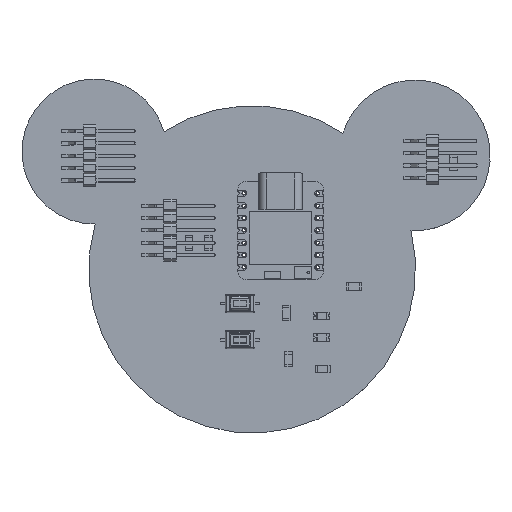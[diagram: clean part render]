
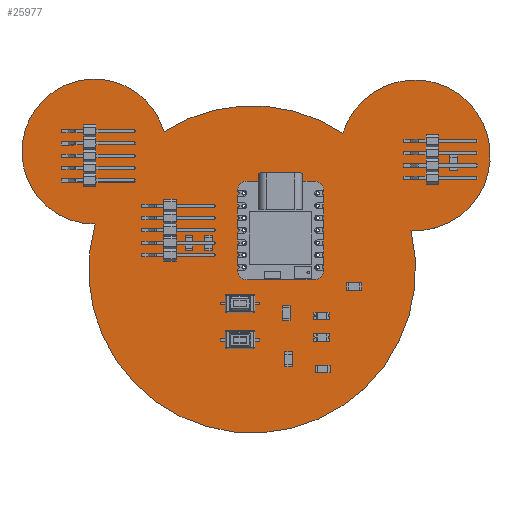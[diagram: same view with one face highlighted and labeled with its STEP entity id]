
A CAD part, top view. The second image highlights one B-rep face of the part: STEP entity #25977.
In plain terms, the highlighted planar face has unit normal (0, 0, 1).
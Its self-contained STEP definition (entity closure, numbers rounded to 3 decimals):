
#25704 = VERTEX_POINT('',#25705);
#25705 = CARTESIAN_POINT('',(60.671,-67.624,1.51));
#25711 = EDGE_CURVE('',#25704,#25712,#25714,.T.);
#25712 = VERTEX_POINT('',#25713);
#25713 = CARTESIAN_POINT('',(74.852,-48.59,1.51));
#25714 = CIRCLE('',#25715,14.915);
#25715 = AXIS2_PLACEMENT_3D('',#25716,#25717,#25718);
#25716 = CARTESIAN_POINT('',(60.517,-52.709,1.51));
#25717 = DIRECTION('',(0.,0.,-1.));
#25718 = DIRECTION('',(0.01,-1.,0.));
#25746 = VERTEX_POINT('',#25747);
#25747 = CARTESIAN_POINT('',(125.69,-68.987,1.51));
#25753 = EDGE_CURVE('',#25746,#25704,#25754,.T.);
#25754 = CIRCLE('',#25755,33.659);
#25755 = AXIS2_PLACEMENT_3D('',#25756,#25757,#25758);
#25756 = CARTESIAN_POINT('',(92.998,-76.999,1.51));
#25757 = DIRECTION('',(0.,0.,-1.));
#25758 = DIRECTION('',(0.971,0.238,0.));
#25777 = EDGE_CURVE('',#25712,#25778,#25780,.T.);
#25778 = VERTEX_POINT('',#25779);
#25779 = CARTESIAN_POINT('',(111.67,-48.93,1.51));
#25780 = CIRCLE('',#25781,33.712);
#25781 = AXIS2_PLACEMENT_3D('',#25782,#25783,#25784);
#25782 = CARTESIAN_POINT('',(93.,-77.,1.51));
#25783 = DIRECTION('',(0.,0.,-1.));
#25784 = DIRECTION('',(-0.538,0.843,0.));
#25977 = ADVANCED_FACE('',(#25978,#25990,#26001,#26012,#26023,#26034,
    #26045,#26056,#26067,#26078,#26089,#26100,#26111,#26122,#26133),
  #26144,.T.);
#25978 = FACE_BOUND('',#25979,.T.);
#25979 = EDGE_LOOP('',(#25980,#25981,#25982,#25989));
#25980 = ORIENTED_EDGE('',*,*,#25711,.F.);
#25981 = ORIENTED_EDGE('',*,*,#25753,.F.);
#25982 = ORIENTED_EDGE('',*,*,#25983,.F.);
#25983 = EDGE_CURVE('',#25778,#25746,#25984,.T.);
#25984 = CIRCLE('',#25985,15.516);
#25985 = AXIS2_PLACEMENT_3D('',#25986,#25987,#25988);
#25986 = CARTESIAN_POINT('',(126.5,-53.492,1.51));
#25987 = DIRECTION('',(0.,0.,-1.));
#25988 = DIRECTION('',(-0.956,0.294,-0.));
#25989 = ORIENTED_EDGE('',*,*,#25777,.F.);
#25990 = FACE_BOUND('',#25991,.T.);
#25991 = EDGE_LOOP('',(#25992));
#25992 = ORIENTED_EDGE('',*,*,#25993,.T.);
#25993 = EDGE_CURVE('',#25994,#25994,#25996,.T.);
#25994 = VERTEX_POINT('',#25995);
#25995 = CARTESIAN_POINT('',(91.25,-76.96,1.51));
#25996 = CIRCLE('',#25997,0.4);
#25997 = AXIS2_PLACEMENT_3D('',#25998,#25999,#26000);
#25998 = CARTESIAN_POINT('',(91.25,-76.56,1.51));
#25999 = DIRECTION('',(-0.,0.,-1.));
#26000 = DIRECTION('',(-0.,-1.,0.));
#26001 = FACE_BOUND('',#26002,.T.);
#26002 = EDGE_LOOP('',(#26003));
#26003 = ORIENTED_EDGE('',*,*,#26004,.T.);
#26004 = EDGE_CURVE('',#26005,#26005,#26007,.T.);
#26005 = VERTEX_POINT('',#26006);
#26006 = CARTESIAN_POINT('',(91.25,-74.42,1.51));
#26007 = CIRCLE('',#26008,0.4);
#26008 = AXIS2_PLACEMENT_3D('',#26009,#26010,#26011);
#26009 = CARTESIAN_POINT('',(91.25,-74.02,1.51));
#26010 = DIRECTION('',(-0.,0.,-1.));
#26011 = DIRECTION('',(-0.,-1.,0.));
#26012 = FACE_BOUND('',#26013,.T.);
#26013 = EDGE_LOOP('',(#26014));
#26014 = ORIENTED_EDGE('',*,*,#26015,.T.);
#26015 = EDGE_CURVE('',#26016,#26016,#26018,.T.);
#26016 = VERTEX_POINT('',#26017);
#26017 = CARTESIAN_POINT('',(91.25,-71.88,1.51));
#26018 = CIRCLE('',#26019,0.4);
#26019 = AXIS2_PLACEMENT_3D('',#26020,#26021,#26022);
#26020 = CARTESIAN_POINT('',(91.25,-71.48,1.51));
#26021 = DIRECTION('',(-0.,0.,-1.));
#26022 = DIRECTION('',(-0.,-1.,0.));
#26023 = FACE_BOUND('',#26024,.T.);
#26024 = EDGE_LOOP('',(#26025));
#26025 = ORIENTED_EDGE('',*,*,#26026,.T.);
#26026 = EDGE_CURVE('',#26027,#26027,#26029,.T.);
#26027 = VERTEX_POINT('',#26028);
#26028 = CARTESIAN_POINT('',(91.25,-69.34,1.51));
#26029 = CIRCLE('',#26030,0.4);
#26030 = AXIS2_PLACEMENT_3D('',#26031,#26032,#26033);
#26031 = CARTESIAN_POINT('',(91.25,-68.94,1.51));
#26032 = DIRECTION('',(-0.,0.,-1.));
#26033 = DIRECTION('',(-0.,-1.,0.));
#26034 = FACE_BOUND('',#26035,.T.);
#26035 = EDGE_LOOP('',(#26036));
#26036 = ORIENTED_EDGE('',*,*,#26037,.T.);
#26037 = EDGE_CURVE('',#26038,#26038,#26040,.T.);
#26038 = VERTEX_POINT('',#26039);
#26039 = CARTESIAN_POINT('',(106.485,-76.96,1.51));
#26040 = CIRCLE('',#26041,0.4);
#26041 = AXIS2_PLACEMENT_3D('',#26042,#26043,#26044);
#26042 = CARTESIAN_POINT('',(106.485,-76.56,1.51));
#26043 = DIRECTION('',(-0.,0.,-1.));
#26044 = DIRECTION('',(-0.,-1.,0.));
#26045 = FACE_BOUND('',#26046,.T.);
#26046 = EDGE_LOOP('',(#26047));
#26047 = ORIENTED_EDGE('',*,*,#26048,.T.);
#26048 = EDGE_CURVE('',#26049,#26049,#26051,.T.);
#26049 = VERTEX_POINT('',#26050);
#26050 = CARTESIAN_POINT('',(106.485,-74.42,1.51));
#26051 = CIRCLE('',#26052,0.4);
#26052 = AXIS2_PLACEMENT_3D('',#26053,#26054,#26055);
#26053 = CARTESIAN_POINT('',(106.485,-74.02,1.51));
#26054 = DIRECTION('',(-0.,0.,-1.));
#26055 = DIRECTION('',(-0.,-1.,0.));
#26056 = FACE_BOUND('',#26057,.T.);
#26057 = EDGE_LOOP('',(#26058));
#26058 = ORIENTED_EDGE('',*,*,#26059,.T.);
#26059 = EDGE_CURVE('',#26060,#26060,#26062,.T.);
#26060 = VERTEX_POINT('',#26061);
#26061 = CARTESIAN_POINT('',(106.485,-71.88,1.51));
#26062 = CIRCLE('',#26063,0.4);
#26063 = AXIS2_PLACEMENT_3D('',#26064,#26065,#26066);
#26064 = CARTESIAN_POINT('',(106.485,-71.48,1.51));
#26065 = DIRECTION('',(-0.,0.,-1.));
#26066 = DIRECTION('',(-0.,-1.,0.));
#26067 = FACE_BOUND('',#26068,.T.);
#26068 = EDGE_LOOP('',(#26069));
#26069 = ORIENTED_EDGE('',*,*,#26070,.T.);
#26070 = EDGE_CURVE('',#26071,#26071,#26073,.T.);
#26071 = VERTEX_POINT('',#26072);
#26072 = CARTESIAN_POINT('',(106.485,-69.34,1.51));
#26073 = CIRCLE('',#26074,0.4);
#26074 = AXIS2_PLACEMENT_3D('',#26075,#26076,#26077);
#26075 = CARTESIAN_POINT('',(106.485,-68.94,1.51));
#26076 = DIRECTION('',(-0.,0.,-1.));
#26077 = DIRECTION('',(-0.,-1.,0.));
#26078 = FACE_BOUND('',#26079,.T.);
#26079 = EDGE_LOOP('',(#26080));
#26080 = ORIENTED_EDGE('',*,*,#26081,.T.);
#26081 = EDGE_CURVE('',#26082,#26082,#26084,.T.);
#26082 = VERTEX_POINT('',#26083);
#26083 = CARTESIAN_POINT('',(91.25,-66.8,1.51));
#26084 = CIRCLE('',#26085,0.4);
#26085 = AXIS2_PLACEMENT_3D('',#26086,#26087,#26088);
#26086 = CARTESIAN_POINT('',(91.25,-66.4,1.51));
#26087 = DIRECTION('',(-0.,0.,-1.));
#26088 = DIRECTION('',(-0.,-1.,0.));
#26089 = FACE_BOUND('',#26090,.T.);
#26090 = EDGE_LOOP('',(#26091));
#26091 = ORIENTED_EDGE('',*,*,#26092,.T.);
#26092 = EDGE_CURVE('',#26093,#26093,#26095,.T.);
#26093 = VERTEX_POINT('',#26094);
#26094 = CARTESIAN_POINT('',(91.25,-64.26,1.51));
#26095 = CIRCLE('',#26096,0.4);
#26096 = AXIS2_PLACEMENT_3D('',#26097,#26098,#26099);
#26097 = CARTESIAN_POINT('',(91.25,-63.86,1.51));
#26098 = DIRECTION('',(-0.,0.,-1.));
#26099 = DIRECTION('',(-0.,-1.,0.));
#26100 = FACE_BOUND('',#26101,.T.);
#26101 = EDGE_LOOP('',(#26102));
#26102 = ORIENTED_EDGE('',*,*,#26103,.T.);
#26103 = EDGE_CURVE('',#26104,#26104,#26106,.T.);
#26104 = VERTEX_POINT('',#26105);
#26105 = CARTESIAN_POINT('',(91.25,-61.72,1.51));
#26106 = CIRCLE('',#26107,0.4);
#26107 = AXIS2_PLACEMENT_3D('',#26108,#26109,#26110);
#26108 = CARTESIAN_POINT('',(91.25,-61.32,1.51));
#26109 = DIRECTION('',(-0.,0.,-1.));
#26110 = DIRECTION('',(-0.,-1.,0.));
#26111 = FACE_BOUND('',#26112,.T.);
#26112 = EDGE_LOOP('',(#26113));
#26113 = ORIENTED_EDGE('',*,*,#26114,.T.);
#26114 = EDGE_CURVE('',#26115,#26115,#26117,.T.);
#26115 = VERTEX_POINT('',#26116);
#26116 = CARTESIAN_POINT('',(106.485,-66.8,1.51));
#26117 = CIRCLE('',#26118,0.4);
#26118 = AXIS2_PLACEMENT_3D('',#26119,#26120,#26121);
#26119 = CARTESIAN_POINT('',(106.485,-66.4,1.51));
#26120 = DIRECTION('',(-0.,0.,-1.));
#26121 = DIRECTION('',(-0.,-1.,0.));
#26122 = FACE_BOUND('',#26123,.T.);
#26123 = EDGE_LOOP('',(#26124));
#26124 = ORIENTED_EDGE('',*,*,#26125,.T.);
#26125 = EDGE_CURVE('',#26126,#26126,#26128,.T.);
#26126 = VERTEX_POINT('',#26127);
#26127 = CARTESIAN_POINT('',(106.485,-64.26,1.51));
#26128 = CIRCLE('',#26129,0.4);
#26129 = AXIS2_PLACEMENT_3D('',#26130,#26131,#26132);
#26130 = CARTESIAN_POINT('',(106.485,-63.86,1.51));
#26131 = DIRECTION('',(-0.,0.,-1.));
#26132 = DIRECTION('',(-0.,-1.,0.));
#26133 = FACE_BOUND('',#26134,.T.);
#26134 = EDGE_LOOP('',(#26135));
#26135 = ORIENTED_EDGE('',*,*,#26136,.T.);
#26136 = EDGE_CURVE('',#26137,#26137,#26139,.T.);
#26137 = VERTEX_POINT('',#26138);
#26138 = CARTESIAN_POINT('',(106.485,-61.72,1.51));
#26139 = CIRCLE('',#26140,0.4);
#26140 = AXIS2_PLACEMENT_3D('',#26141,#26142,#26143);
#26141 = CARTESIAN_POINT('',(106.485,-61.32,1.51));
#26142 = DIRECTION('',(-0.,0.,-1.));
#26143 = DIRECTION('',(-0.,-1.,0.));
#26144 = PLANE('',#26145);
#26145 = AXIS2_PLACEMENT_3D('',#26146,#26147,#26148);
#26146 = CARTESIAN_POINT('',(0.,0.,1.51));
#26147 = DIRECTION('',(0.,0.,1.));
#26148 = DIRECTION('',(1.,0.,-0.));
